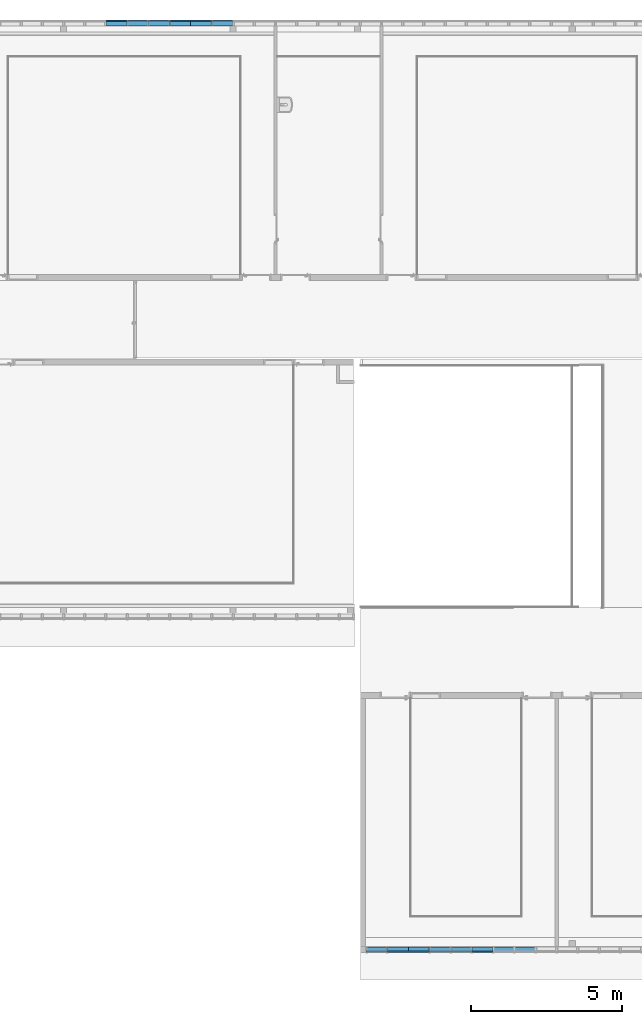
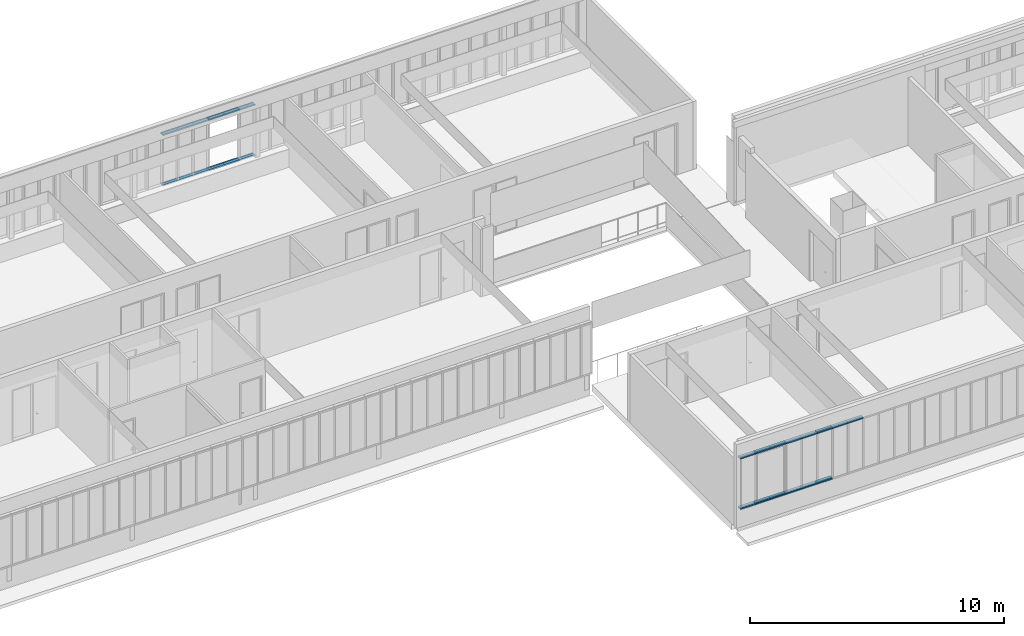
# One storey, part 12 of 87: 38 members, 2 elements without a shape of their own.
"""IFC2X3 building model written with IfcOpenShell, lengths in centimetres."""

from ifc_helpers import new_model, entity, si_unit, converted_unit, derived_unit, direction, frame, origin, place, context, subcontext, project, spatial, polyline, outline, extrude, source, transform, mapped, material, type_object, type_shapes, element, aggregate, save


model = new_model("IFC2X3")

# Units and contexts
model_context = context("Model", 3, precision=0.001, world=origin(), true_north=direction((6.12303176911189e-17, 1.0)))
body_context = subcontext(model_context, "Body", "Model", "MODEL_VIEW")
ifc_project = project(units=[si_unit("LENGTHUNIT", "METRE", prefix="CENTI"), si_unit("AREAUNIT", "SQUARE_METRE"), si_unit("VOLUMEUNIT", "CUBIC_METRE"), converted_unit("PLANEANGLEUNIT", "DEGREE", entity("IfcRatioMeasure", 0.0174532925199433), si_unit("PLANEANGLEUNIT", "RADIAN"), dimensions=[0, 0, 0, 0, 0, 0, 0]), si_unit("MASSUNIT", "GRAM", prefix="KILO"), derived_unit("MASSDENSITYUNIT", [(si_unit("MASSUNIT", "GRAM", prefix="KILO"), 1), (si_unit("LENGTHUNIT", "METRE"), -3)]), si_unit("TIMEUNIT", "SECOND"), si_unit("FREQUENCYUNIT", "HERTZ"), si_unit("THERMODYNAMICTEMPERATUREUNIT", "DEGREE_CELSIUS"), derived_unit("THERMALTRANSMITTANCEUNIT", [(si_unit("MASSUNIT", "GRAM", prefix="KILO"), 1), (si_unit("THERMODYNAMICTEMPERATUREUNIT", "KELVIN"), -1), (si_unit("TIMEUNIT", "SECOND"), -3)]), derived_unit("VOLUMETRICFLOWRATEUNIT", [(si_unit("LENGTHUNIT", "METRE"), 3), (si_unit("TIMEUNIT", "SECOND"), -1)]), si_unit("ELECTRICCURRENTUNIT", "AMPERE"), si_unit("ELECTRICVOLTAGEUNIT", "VOLT"), si_unit("POWERUNIT", "WATT"), si_unit("FORCEUNIT", "NEWTON", prefix="KILO"), si_unit("ILLUMINANCEUNIT", "LUX"), si_unit("LUMINOUSFLUXUNIT", "LUMEN"), si_unit("LUMINOUSINTENSITYUNIT", "CANDELA"), derived_unit("USERDEFINED", [(si_unit("MASSUNIT", "GRAM", prefix="KILO"), -1), (si_unit("LENGTHUNIT", "METRE"), -2), (si_unit("TIMEUNIT", "SECOND"), 3), (si_unit("LUMINOUSFLUXUNIT", "LUMEN"), 1)]), derived_unit("LINEARVELOCITYUNIT", [(si_unit("LENGTHUNIT", "METRE"), 1), (si_unit("TIMEUNIT", "SECOND"), -1)]), si_unit("PRESSUREUNIT", "PASCAL"), derived_unit("USERDEFINED", [(si_unit("LENGTHUNIT", "METRE"), -2), (si_unit("MASSUNIT", "GRAM", prefix="KILO"), 1), (si_unit("TIMEUNIT", "SECOND"), -2)])], contexts=[model_context])

# Site, building, storey
site_placement = place(None, frame((-2781.94577612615, 7442.24238424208, 0.0)))
site = spatial("IfcSite", under=ifc_project, at=site_placement, Name="Default", CompositionType="ELEMENT")
building_placement = place(site_placement, origin())
building = spatial("IfcBuilding", under=site, at=building_placement, CompositionType="ELEMENT")
storey_placement = place(building_placement, frame((0.0, 0.0, 774.0)))
storey = spatial("IfcBuildingStorey", under=building, at=storey_placement, Name="TR - N02 - ARCH", CompositionType="ELEMENT", Elevation=774.0)

# Curtain wall, member
curtain_wall_type = type_object("IfcCurtainWallType", Name="Mur-rideau:07 - mur rideau trame 70cm", PredefinedType="NOTDEFINED")
curtain_wall_1_placement = place(storey_placement, frame((0.0, 0.0, -774.0)))
curtain_wall_1 = element("IfcCurtainWall", 1, at=curtain_wall_1_placement, inside=storey, type_object=curtain_wall_type, Name="Mur-rideau:07 - mur rideau trame 70cm", ObjectType="Mur-rideau:07 - mur rideau trame 70cm")
ifc_material = material(Name="Aluminium")
member_type_1 = type_object("IfcMemberType", Name="150 x 25mm Détails", PredefinedType="MEMBER")
shared_shape_1 = source(origin(), body_context, "Body", "SweptSolid", [
    extrude(outline(polyline([(-5.6666666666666, -3.24999999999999), (-3.66666666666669, -3.24999999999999), (-3.66666666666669, -0.868749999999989), (-0.166666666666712, -0.868749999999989), (-0.166666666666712, -3.25000000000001), (13.3333333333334, -3.25000000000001), (13.3333333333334, 3.24999999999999), (-0.16666666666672, 3.24999999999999), (-0.16666666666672, 0.868749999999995), (-3.66666666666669, 0.868749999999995), (-3.66666666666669, 3.25), (-5.6666666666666, 3.25), (-5.6666666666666, -3.24999999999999)])), frame((-3.24999999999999, -1.96666666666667, -70.0), z_axis=(0.0, 0.0, 1.0), x_axis=(0.0, -1.0, 0.0)), (0.0, 0.0, 1.0), 70.0000000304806),
])
type_shapes(member_type_1, [shared_shape_1])
member_1_placement = place(storey_placement, frame((-4680.749882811, -3046.51349958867, 332.5), z_axis=(1.0, 0.0, 0.0), x_axis=(0.0, 0.0, 1.0)))
member_1 = element("IfcMember", 2, at=member_1_placement, type_object=member_type_1, material=ifc_material, Name="Meneau rectangulaire:150 x 25mm Détails", ObjectType="Meneau rectangulaire:150 x 25mm Détails", context=body_context, shape_type="MappedRepresentation", body=[
    mapped(shared_shape_1, transform((0.0, 0.0, 0.0), scale=1.0)),
])

# Curtain wall, members
curtain_wall_2_placement = place(storey_placement, frame((0.0, 0.0, -774.0)))
curtain_wall_2 = element("IfcCurtainWall", 3, at=curtain_wall_2_placement, inside=storey, type_object=curtain_wall_type, Name="Mur-rideau:07 - mur rideau trame 70cm", ObjectType="Mur-rideau:07 - mur rideau trame 70cm")
member_type_2 = type_object("IfcMemberType", Name="150 x 25mm Détails", PredefinedType="MEMBER")
shared_shape_2 = source(origin(), body_context, "Body", "SweptSolid", [
    extrude(outline(polyline([(-5.6666666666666, -3.24999999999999), (-3.66666666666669, -3.24999999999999), (-3.66666666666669, -0.868749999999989), (-0.166666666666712, -0.868749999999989), (-0.166666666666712, -3.25000000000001), (13.3333333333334, -3.25000000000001), (13.3333333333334, 3.24999999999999), (-0.16666666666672, 3.24999999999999), (-0.16666666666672, 0.868749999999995), (-3.66666666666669, 0.868749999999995), (-3.66666666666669, 3.25), (-5.6666666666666, 3.25), (-5.6666666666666, -3.24999999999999)])), frame((-3.24999999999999, -1.96666666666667, -70.0), z_axis=(0.0, 0.0, 1.0), x_axis=(0.0, -1.0, 0.0)), (0.0, 0.0, 1.0), 69.9999999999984),
])
type_shapes(member_type_2, [shared_shape_2])
member_2_placement = place(storey_placement, frame((-5259.4998776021, 26.2000000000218, 332.5), z_axis=(-1.0, 0.0, 0.0), x_axis=(0.0, 0.0, 1.0)))
member_2 = element("IfcMember", 4, at=member_2_placement, type_object=member_type_2, material=ifc_material, Name="Meneau rectangulaire:150 x 25mm Détails", ObjectType="Meneau rectangulaire:150 x 25mm Détails", context=body_context, shape_type="MappedRepresentation", body=[
    mapped(shared_shape_2, transform((0.0, 0.0, 0.0), scale=1.0)),
])
member_3_placement = place(storey_placement, frame((-5329.4998776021, 26.2000000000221, 332.5), z_axis=(-1.0, 0.0, 0.0), x_axis=(0.0, 0.0, 1.0)))
member_3 = element("IfcMember", 5, at=member_3_placement, type_object=member_type_2, material=ifc_material, Name="Meneau rectangulaire:150 x 25mm Détails", ObjectType="Meneau rectangulaire:150 x 25mm Détails", context=body_context, shape_type="MappedRepresentation", body=[
    mapped(shared_shape_2, transform((0.0, 0.0, 0.0), scale=1.0)),
])
member_4_placement = place(storey_placement, frame((-5399.4998776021, 26.2000000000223, 332.5), z_axis=(-1.0, 0.0, 0.0), x_axis=(0.0, 0.0, 1.0)))
member_4 = element("IfcMember", 6, at=member_4_placement, type_object=member_type_2, material=ifc_material, Name="Meneau rectangulaire:150 x 25mm Détails", ObjectType="Meneau rectangulaire:150 x 25mm Détails", context=body_context, shape_type="MappedRepresentation", body=[
    mapped(shared_shape_2, transform((0.0, 0.0, 0.0), scale=1.0)),
])
member_5_placement = place(storey_placement, frame((-5469.4998776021, 26.2000000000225, 332.5), z_axis=(-1.0, 0.0, 0.0), x_axis=(0.0, 0.0, 1.0)))
member_5 = element("IfcMember", 7, at=member_5_placement, type_object=member_type_2, material=ifc_material, Name="Meneau rectangulaire:150 x 25mm Détails", ObjectType="Meneau rectangulaire:150 x 25mm Détails", context=body_context, shape_type="MappedRepresentation", body=[
    mapped(shared_shape_2, transform((0.0, 0.0, 0.0), scale=1.0)),
])
member_6_placement = place(storey_placement, frame((-5539.4998776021, 26.2000000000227, 332.5), z_axis=(-1.0, 0.0, 0.0), x_axis=(0.0, 0.0, 1.0)))
member_6 = element("IfcMember", 8, at=member_6_placement, type_object=member_type_2, material=ifc_material, Name="Meneau rectangulaire:150 x 25mm Détails", ObjectType="Meneau rectangulaire:150 x 25mm Détails", context=body_context, shape_type="MappedRepresentation", body=[
    mapped(shared_shape_2, transform((0.0, 0.0, 0.0), scale=1.0)),
])
member_7_placement = place(storey_placement, frame((-5609.4998776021, 26.200000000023, 332.5), z_axis=(-1.0, 0.0, 0.0), x_axis=(0.0, 0.0, 1.0)))
member_7 = element("IfcMember", 9, at=member_7_placement, type_object=member_type_2, material=ifc_material, Name="Meneau rectangulaire:150 x 25mm Détails", ObjectType="Meneau rectangulaire:150 x 25mm Détails", context=body_context, shape_type="MappedRepresentation", body=[
    mapped(shared_shape_2, transform((0.0, 0.0, 0.0), scale=1.0)),
])

# Member
member_8_placement = place(storey_placement, frame((-4610.749882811, -3046.51349958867, 332.5), z_axis=(1.0, 0.0, 0.0), x_axis=(0.0, 0.0, 1.0)))
member_8 = element("IfcMember", 10, at=member_8_placement, type_object=member_type_2, material=ifc_material, Name="Meneau rectangulaire:150 x 25mm Détails", ObjectType="Meneau rectangulaire:150 x 25mm Détails", context=body_context, shape_type="MappedRepresentation", body=[
    mapped(shared_shape_2, transform((0.0, 0.0, 0.0), scale=1.0)),
])

member_9_placement = place(storey_placement, frame((-4540.749882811, -3046.51349958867, 332.5), z_axis=(1.0, 0.0, 0.0), x_axis=(0.0, 0.0, 1.0)))
member_9 = element("IfcMember", 11, at=member_9_placement, type_object=member_type_2, material=ifc_material, Name="Meneau rectangulaire:150 x 25mm Détails", ObjectType="Meneau rectangulaire:150 x 25mm Détails", context=body_context, shape_type="MappedRepresentation", body=[
    mapped(shared_shape_2, transform((0.0, 0.0, 0.0), scale=1.0)),
])

member_10_placement = place(storey_placement, frame((-4470.749882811, -3046.51349958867, 332.5), z_axis=(1.0, 0.0, 0.0), x_axis=(0.0, 0.0, 1.0)))
member_10 = element("IfcMember", 12, at=member_10_placement, type_object=member_type_2, material=ifc_material, Name="Meneau rectangulaire:150 x 25mm Détails", ObjectType="Meneau rectangulaire:150 x 25mm Détails", context=body_context, shape_type="MappedRepresentation", body=[
    mapped(shared_shape_2, transform((0.0, 0.0, 0.0), scale=1.0)),
])

member_11_placement = place(storey_placement, frame((-4400.749882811, -3046.51349958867, 332.5), z_axis=(1.0, 0.0, 0.0), x_axis=(0.0, 0.0, 1.0)))
member_11 = element("IfcMember", 13, at=member_11_placement, type_object=member_type_2, material=ifc_material, Name="Meneau rectangulaire:150 x 25mm Détails", ObjectType="Meneau rectangulaire:150 x 25mm Détails", context=body_context, shape_type="MappedRepresentation", body=[
    mapped(shared_shape_2, transform((0.0, 0.0, 0.0), scale=1.0)),
])

member_12_placement = place(storey_placement, frame((-4330.749882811, -3046.51349958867, 332.5), z_axis=(1.0, 0.0, 0.0), x_axis=(0.0, 0.0, 1.0)))
member_12 = element("IfcMember", 14, at=member_12_placement, type_object=member_type_2, material=ifc_material, Name="Meneau rectangulaire:150 x 25mm Détails", ObjectType="Meneau rectangulaire:150 x 25mm Détails", context=body_context, shape_type="MappedRepresentation", body=[
    mapped(shared_shape_2, transform((0.0, 0.0, 0.0), scale=1.0)),
])

member_13_placement = place(storey_placement, frame((-4260.749882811, -3046.51349958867, 332.5), z_axis=(1.0, 0.0, 0.0), x_axis=(0.0, 0.0, 1.0)))
member_13 = element("IfcMember", 15, at=member_13_placement, type_object=member_type_2, material=ifc_material, Name="Meneau rectangulaire:150 x 25mm Détails", ObjectType="Meneau rectangulaire:150 x 25mm Détails", context=body_context, shape_type="MappedRepresentation", body=[
    mapped(shared_shape_2, transform((0.0, 0.0, 0.0), scale=1.0)),
])

member_14_placement = place(storey_placement, frame((-4190.749882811, -3046.51349958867, 332.5), z_axis=(1.0, 0.0, 0.0), x_axis=(0.0, 0.0, 1.0)))
member_14 = element("IfcMember", 16, at=member_14_placement, type_object=member_type_2, material=ifc_material, Name="Meneau rectangulaire:150 x 25mm Détails", ObjectType="Meneau rectangulaire:150 x 25mm Détails", context=body_context, shape_type="MappedRepresentation", body=[
    mapped(shared_shape_2, transform((0.0, 0.0, 0.0), scale=1.0)),
])

member_type_3 = type_object("IfcMemberType", Name="150 x 25mm Détails", PredefinedType="MEMBER")
shared_shape_3 = source(origin(), body_context, "Body", "SweptSolid", [
    extrude(outline(polyline([(-5.66666666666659, -3.25), (-3.66666666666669, -3.25), (-3.66666666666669, -0.868749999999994), (-0.166666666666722, -0.868749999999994), (-0.166666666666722, -3.25000000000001), (13.3333333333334, -3.24999999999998), (13.3333333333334, 3.25000000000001), (-0.166666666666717, 3.25000000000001), (-0.166666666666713, 0.868749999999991), (-3.66666666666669, 0.868749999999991), (-3.66666666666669, 3.24999999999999), (-5.66666666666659, 3.24999999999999), (-5.66666666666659, -3.25)])), frame((-3.24999999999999, -1.96666666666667, -70.0), z_axis=(0.0, 0.0, 1.0), x_axis=(0.0, -1.0, 0.0)), (0.0, 0.0, 1.0), 70.0000000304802),
])
type_shapes(member_type_3, [shared_shape_3])
member_15_placement = place(storey_placement, frame((-4750.74988284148, -3046.51349958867, 83.5000000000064), z_axis=(-1.0, 0.0, 0.0), x_axis=(0.0, 0.0, -1.0)))
member_15 = element("IfcMember", 17, at=member_15_placement, type_object=member_type_3, material=ifc_material, Name="Meneau rectangulaire:150 x 25mm Détails", ObjectType="Meneau rectangulaire:150 x 25mm Détails", context=body_context, shape_type="MappedRepresentation", body=[
    mapped(shared_shape_3, transform((0.0, 0.0, 0.0), scale=1.0)),
])

member_type_4 = type_object("IfcMemberType", Name="150 x 25mm Détails", PredefinedType="MEMBER")
shared_shape_4 = source(origin(), body_context, "Body", "SweptSolid", [
    extrude(outline(polyline([(-5.66666666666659, -3.25), (-3.66666666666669, -3.25), (-3.66666666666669, -0.868749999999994), (-0.166666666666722, -0.868749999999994), (-0.166666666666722, -3.25000000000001), (13.3333333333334, -3.24999999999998), (13.3333333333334, 3.25000000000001), (-0.166666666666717, 3.25000000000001), (-0.166666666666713, 0.868749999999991), (-3.66666666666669, 0.868749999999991), (-3.66666666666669, 3.24999999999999), (-5.66666666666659, 3.24999999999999), (-5.66666666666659, -3.25)])), frame((-3.24999999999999, -1.96666666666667, -70.0), z_axis=(0.0, 0.0, 1.0), x_axis=(0.0, -1.0, 0.0)), (0.0, 0.0, 1.0), 69.9999999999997),
])
type_shapes(member_type_4, [shared_shape_4])
member_16_placement = place(storey_placement, frame((-5189.4998776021, 26.2000000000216, 83.5), z_axis=(1.0, 0.0, 0.0), x_axis=(0.0, 0.0, -1.0)))
member_16 = element("IfcMember", 18, at=member_16_placement, type_object=member_type_4, material=ifc_material, Name="Meneau rectangulaire:150 x 25mm Détails", ObjectType="Meneau rectangulaire:150 x 25mm Détails", context=body_context, shape_type="MappedRepresentation", body=[
    mapped(shared_shape_4, transform((0.0, 0.0, 0.0), scale=1.0)),
])

member_17_placement = place(storey_placement, frame((-5259.4998776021, 26.2000000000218, 83.5), z_axis=(1.0, 0.0, 0.0), x_axis=(0.0, 0.0, -1.0)))
member_17 = element("IfcMember", 19, at=member_17_placement, type_object=member_type_4, material=ifc_material, Name="Meneau rectangulaire:150 x 25mm Détails", ObjectType="Meneau rectangulaire:150 x 25mm Détails", context=body_context, shape_type="MappedRepresentation", body=[
    mapped(shared_shape_4, transform((0.0, 0.0, 0.0), scale=1.0)),
])

member_18_placement = place(storey_placement, frame((-5329.4998776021, 26.2000000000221, 83.5), z_axis=(1.0, 0.0, 0.0), x_axis=(0.0, 0.0, -1.0)))
member_18 = element("IfcMember", 20, at=member_18_placement, type_object=member_type_4, material=ifc_material, Name="Meneau rectangulaire:150 x 25mm Détails", ObjectType="Meneau rectangulaire:150 x 25mm Détails", context=body_context, shape_type="MappedRepresentation", body=[
    mapped(shared_shape_4, transform((0.0, 0.0, 0.0), scale=1.0)),
])

member_19_placement = place(storey_placement, frame((-5399.4998776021, 26.2000000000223, 83.5), z_axis=(1.0, 0.0, 0.0), x_axis=(0.0, 0.0, -1.0)))
member_19 = element("IfcMember", 21, at=member_19_placement, type_object=member_type_4, material=ifc_material, Name="Meneau rectangulaire:150 x 25mm Détails", ObjectType="Meneau rectangulaire:150 x 25mm Détails", context=body_context, shape_type="MappedRepresentation", body=[
    mapped(shared_shape_4, transform((0.0, 0.0, 0.0), scale=1.0)),
])

member_20_placement = place(storey_placement, frame((-5469.4998776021, 26.2000000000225, 83.5), z_axis=(1.0, 0.0, 0.0), x_axis=(0.0, 0.0, -1.0)))
member_20 = element("IfcMember", 22, at=member_20_placement, type_object=member_type_4, material=ifc_material, Name="Meneau rectangulaire:150 x 25mm Détails", ObjectType="Meneau rectangulaire:150 x 25mm Détails", context=body_context, shape_type="MappedRepresentation", body=[
    mapped(shared_shape_4, transform((0.0, 0.0, 0.0), scale=1.0)),
])

member_21_placement = place(storey_placement, frame((-5539.4998776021, 26.2000000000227, 83.5), z_axis=(1.0, 0.0, 0.0), x_axis=(0.0, 0.0, -1.0)))
member_21 = element("IfcMember", 23, at=member_21_placement, type_object=member_type_4, material=ifc_material, Name="Meneau rectangulaire:150 x 25mm Détails", ObjectType="Meneau rectangulaire:150 x 25mm Détails", context=body_context, shape_type="MappedRepresentation", body=[
    mapped(shared_shape_4, transform((0.0, 0.0, 0.0), scale=1.0)),
])

member_22_placement = place(storey_placement, frame((-4540.749882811, -3046.51349958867, 83.5000000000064), z_axis=(-1.0, 0.0, 0.0), x_axis=(0.0, 0.0, -1.0)))
member_22 = element("IfcMember", 24, at=member_22_placement, type_object=member_type_4, material=ifc_material, Name="Meneau rectangulaire:150 x 25mm Détails", ObjectType="Meneau rectangulaire:150 x 25mm Détails", context=body_context, shape_type="MappedRepresentation", body=[
    mapped(shared_shape_4, transform((0.0, 0.0, 0.0), scale=1.0)),
])

member_23_placement = place(storey_placement, frame((-4470.749882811, -3046.51349958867, 83.5000000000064), z_axis=(-1.0, 0.0, 0.0), x_axis=(0.0, 0.0, -1.0)))
member_23 = element("IfcMember", 25, at=member_23_placement, type_object=member_type_4, material=ifc_material, Name="Meneau rectangulaire:150 x 25mm Détails", ObjectType="Meneau rectangulaire:150 x 25mm Détails", context=body_context, shape_type="MappedRepresentation", body=[
    mapped(shared_shape_4, transform((0.0, 0.0, 0.0), scale=1.0)),
])

member_24_placement = place(storey_placement, frame((-4400.749882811, -3046.51349958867, 83.5000000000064), z_axis=(-1.0, 0.0, 0.0), x_axis=(0.0, 0.0, -1.0)))
member_24 = element("IfcMember", 26, at=member_24_placement, type_object=member_type_4, material=ifc_material, Name="Meneau rectangulaire:150 x 25mm Détails", ObjectType="Meneau rectangulaire:150 x 25mm Détails", context=body_context, shape_type="MappedRepresentation", body=[
    mapped(shared_shape_4, transform((0.0, 0.0, 0.0), scale=1.0)),
])

member_type_5 = type_object("IfcMemberType", Name="150 x 25mm Détails", PredefinedType="MEMBER")
shared_shape_5 = source(origin(), body_context, "Body", "SweptSolid", [
    extrude(outline(polyline([(-5.66666666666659, -3.25), (-3.66666666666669, -3.25), (-3.66666666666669, -0.868749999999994), (-0.166666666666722, -0.868749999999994), (-0.166666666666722, -3.25000000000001), (13.3333333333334, -3.24999999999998), (13.3333333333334, 3.25000000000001), (-0.166666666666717, 3.25000000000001), (-0.166666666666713, 0.868749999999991), (-3.66666666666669, 0.868749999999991), (-3.66666666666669, 3.24999999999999), (-5.66666666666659, 3.24999999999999), (-5.66666666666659, -3.25)])), frame((-3.24999999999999, -1.96666666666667, -70.0), z_axis=(0.0, 0.0, 1.0), x_axis=(0.0, -1.0, 0.0)), (0.0, 0.0, 1.0), 69.9999999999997),
])
type_shapes(member_type_5, [shared_shape_5])
member_25_placement = place(storey_placement, frame((-4680.749882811, -3046.51349958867, 83.5000000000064), z_axis=(-1.0, 0.0, 0.0), x_axis=(0.0, 0.0, -1.0)))
member_25 = element("IfcMember", 27, at=member_25_placement, type_object=member_type_5, material=ifc_material, Name="Meneau rectangulaire:150 x 25mm Détails", ObjectType="Meneau rectangulaire:150 x 25mm Détails", context=body_context, shape_type="MappedRepresentation", body=[
    mapped(shared_shape_5, transform((0.0, 0.0, 0.0), scale=1.0)),
])

member_type_6 = type_object("IfcMemberType", Name="150 x 25mm Détails", PredefinedType="MEMBER")
shared_shape_6 = source(origin(), body_context, "Body", "SweptSolid", [
    extrude(outline(polyline([(-5.66666666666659, -3.25), (-3.66666666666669, -3.25), (-3.66666666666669, -0.868749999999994), (-0.166666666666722, -0.868749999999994), (-0.166666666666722, -3.25000000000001), (13.3333333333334, -3.24999999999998), (13.3333333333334, 3.25000000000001), (-0.166666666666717, 3.25000000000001), (-0.166666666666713, 0.868749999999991), (-3.66666666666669, 0.868749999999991), (-3.66666666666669, 3.24999999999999), (-5.66666666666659, 3.24999999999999), (-5.66666666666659, -3.25)])), frame((-3.24999999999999, -1.96666666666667, -70.0), z_axis=(0.0, 0.0, 1.0), x_axis=(0.0, -1.0, 0.0)), (0.0, 0.0, 1.0), 69.9999999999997),
])
type_shapes(member_type_6, [shared_shape_6])
member_26_placement = place(storey_placement, frame((-4610.749882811, -3046.51349958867, 83.5000000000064), z_axis=(-1.0, 0.0, 0.0), x_axis=(0.0, 0.0, -1.0)))
member_26 = element("IfcMember", 28, at=member_26_placement, type_object=member_type_6, material=ifc_material, Name="Meneau rectangulaire:150 x 25mm Détails", ObjectType="Meneau rectangulaire:150 x 25mm Détails", context=body_context, shape_type="MappedRepresentation", body=[
    mapped(shared_shape_6, transform((0.0, 0.0, 0.0), scale=1.0)),
])

member_type_7 = type_object("IfcMemberType", Name="150 x 25mm Détails", PredefinedType="MEMBER")
shared_shape_7 = source(origin(), body_context, "Body", "SweptSolid", [
    extrude(outline(polyline([(-5.66666666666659, -3.25), (-3.66666666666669, -3.25), (-3.66666666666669, -0.868749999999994), (-0.166666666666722, -0.868749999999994), (-0.166666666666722, -3.25000000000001), (13.3333333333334, -3.24999999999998), (13.3333333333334, 3.25000000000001), (-0.166666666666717, 3.25000000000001), (-0.166666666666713, 0.868749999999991), (-3.66666666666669, 0.868749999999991), (-3.66666666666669, 3.24999999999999), (-5.66666666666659, 3.24999999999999), (-5.66666666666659, -3.25)])), frame((-3.24999999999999, -1.96666666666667, -68.0), z_axis=(0.0, 0.0, 1.0), x_axis=(0.0, -1.0, 0.0)), (0.0, 0.0, 1.0), 68.0000000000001),
])
type_shapes(member_type_7, [shared_shape_7])
member_27_placement = place(storey_placement, frame((-5540.4686276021, 26.2000000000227, 326.0), z_axis=(1.0, 0.0, 0.0), x_axis=(0.0, 0.0, -1.0)))
member_27 = element("IfcMember", 29, at=member_27_placement, type_object=member_type_7, material=ifc_material, Name="Meneau rectangulaire:150 x 25mm Détails", ObjectType="Meneau rectangulaire:150 x 25mm Détails", context=body_context, shape_type="MappedRepresentation", body=[
    mapped(shared_shape_7, transform((0.0, 0.0, 0.0), scale=1.0)),
])

member_28_placement = place(storey_placement, frame((-4399.99987760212, -3046.51349958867, 326.0), z_axis=(-1.0, 0.0, 0.0), x_axis=(0.0, 0.0, -1.0)))
member_28 = element("IfcMember", 30, at=member_28_placement, type_object=member_type_7, material=ifc_material, Name="Meneau rectangulaire:150 x 25mm Détails", ObjectType="Meneau rectangulaire:150 x 25mm Détails", context=body_context, shape_type="MappedRepresentation", body=[
    mapped(shared_shape_7, transform((0.0, 0.0, 0.0), scale=1.0)),
])

member_type_8 = type_object("IfcMemberType", Name="150 x 25mm Détails", PredefinedType="MEMBER")
shared_shape_8 = source(origin(), body_context, "Body", "SweptSolid", [
    extrude(outline(polyline([(-5.66666666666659, -3.25), (-3.66666666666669, -3.25), (-3.66666666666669, -0.868749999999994), (-0.166666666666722, -0.868749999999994), (-0.166666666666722, -3.25000000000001), (13.3333333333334, -3.24999999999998), (13.3333333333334, 3.25000000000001), (-0.166666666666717, 3.25000000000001), (-0.166666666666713, 0.868749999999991), (-3.66666666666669, 0.868749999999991), (-3.66666666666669, 3.24999999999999), (-5.66666666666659, 3.24999999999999), (-5.66666666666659, -3.25)])), frame((-3.24999999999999, -1.96666666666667, -66.7499999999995), z_axis=(0.0, 0.0, 1.0), x_axis=(0.0, -1.0, 0.0)), (0.0, 0.0, 1.0), 66.7499999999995),
])
type_shapes(member_type_8, [shared_shape_8])
member_29_placement = place(storey_placement, frame((-5262.7498776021, 26.2000000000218, 326.0), z_axis=(1.0, 0.0, 0.0), x_axis=(0.0, 0.0, -1.0)))
member_29 = element("IfcMember", 31, at=member_29_placement, type_object=member_type_8, material=ifc_material, Name="Meneau rectangulaire:150 x 25mm Détails", ObjectType="Meneau rectangulaire:150 x 25mm Détails", context=body_context, shape_type="MappedRepresentation", body=[
    mapped(shared_shape_8, transform((0.0, 0.0, 0.0), scale=1.0)),
])

member_30_placement = place(storey_placement, frame((-4677.499882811, -3046.51349958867, 326.0), z_axis=(-1.0, 0.0, 0.0), x_axis=(0.0, 0.0, -1.0)))
member_30 = element("IfcMember", 32, at=member_30_placement, type_object=member_type_8, material=ifc_material, Name="Meneau rectangulaire:150 x 25mm Détails", ObjectType="Meneau rectangulaire:150 x 25mm Détails", context=body_context, shape_type="MappedRepresentation", body=[
    mapped(shared_shape_8, transform((0.0, 0.0, 0.0), scale=1.0)),
])

member_type_9 = type_object("IfcMemberType", Name="150 x 25mm Détails", PredefinedType="MEMBER")
shared_shape_9 = source(origin(), body_context, "Body", "SweptSolid", [
    extrude(outline(polyline([(-5.6666666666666, -3.24999999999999), (-3.66666666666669, -3.24999999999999), (-3.66666666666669, -0.868749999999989), (-0.166666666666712, -0.868749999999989), (-0.166666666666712, -3.25000000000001), (13.3333333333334, -3.25000000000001), (13.3333333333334, 3.24999999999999), (-0.16666666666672, 3.24999999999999), (-0.16666666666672, 0.868749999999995), (-3.66666666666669, 0.868749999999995), (-3.66666666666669, 3.25), (-5.6666666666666, 3.25), (-5.6666666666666, -3.24999999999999)])), frame((-3.24999999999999, -1.96666666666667, -68.0), z_axis=(0.0, 0.0, 1.0), x_axis=(0.0, -1.0, 0.0)), (0.0, 0.0, 1.0), 68.0000000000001),
])
type_shapes(member_type_9, [shared_shape_9])
member_31_placement = place(storey_placement, frame((-5608.4686276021, 26.200000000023, 90.0), z_axis=(-1.0, 0.0, 0.0), x_axis=(0.0, 0.0, 1.0)))
member_31 = element("IfcMember", 33, at=member_31_placement, type_object=member_type_9, material=ifc_material, Name="Meneau rectangulaire:150 x 25mm Détails", ObjectType="Meneau rectangulaire:150 x 25mm Détails", context=body_context, shape_type="MappedRepresentation", body=[
    mapped(shared_shape_9, transform((0.0, 0.0, 0.0), scale=1.0)),
])

member_32_placement = place(storey_placement, frame((-4331.99987760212, -3046.51349958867, 90.0), z_axis=(1.0, 0.0, 0.0), x_axis=(0.0, 0.0, 1.0)))
member_32 = element("IfcMember", 34, at=member_32_placement, type_object=member_type_9, material=ifc_material, Name="Meneau rectangulaire:150 x 25mm Détails", ObjectType="Meneau rectangulaire:150 x 25mm Détails", context=body_context, shape_type="MappedRepresentation", body=[
    mapped(shared_shape_9, transform((0.0, 0.0, 0.0), scale=1.0)),
])

member_type_10 = type_object("IfcMemberType", Name="150 x 25mm Détails", PredefinedType="MEMBER")
shared_shape_10 = source(origin(), body_context, "Body", "SweptSolid", [
    extrude(outline(polyline([(-5.6666666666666, -3.24999999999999), (-3.66666666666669, -3.24999999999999), (-3.66666666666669, -0.868749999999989), (-0.166666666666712, -0.868749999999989), (-0.166666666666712, -3.25000000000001), (13.3333333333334, -3.25000000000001), (13.3333333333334, 3.24999999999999), (-0.16666666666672, 3.24999999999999), (-0.16666666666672, 0.868749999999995), (-3.66666666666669, 0.868749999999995), (-3.66666666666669, 3.25), (-5.6666666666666, 3.25), (-5.6666666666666, -3.24999999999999)])), frame((-3.24999999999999, -1.96666666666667, -66.7499999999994), z_axis=(0.0, 0.0, 1.0), x_axis=(0.0, -1.0, 0.0)), (0.0, 0.0, 1.0), 66.7499999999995),
])
type_shapes(member_type_10, [shared_shape_10])
member_33_placement = place(storey_placement, frame((-5396.2498776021, 26.2000000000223, 90.0), z_axis=(-1.0, 0.0, 0.0), x_axis=(0.0, 0.0, 1.0)))
member_33 = element("IfcMember", 35, at=member_33_placement, type_object=member_type_10, material=ifc_material, Name="Meneau rectangulaire:150 x 25mm Détails", ObjectType="Meneau rectangulaire:150 x 25mm Détails", context=body_context, shape_type="MappedRepresentation", body=[
    mapped(shared_shape_10, transform((0.0, 0.0, 0.0), scale=1.0)),
])

member_type_11 = type_object("IfcMemberType", Name="150 x 25mm Détails", PredefinedType="MEMBER")
shared_shape_11 = source(origin(), body_context, "Body", "SweptSolid", [
    extrude(outline(polyline([(-5.6666666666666, -3.24999999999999), (-3.66666666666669, -3.24999999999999), (-3.66666666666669, -0.868749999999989), (-0.166666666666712, -0.868749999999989), (-0.166666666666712, -3.25000000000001), (13.3333333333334, -3.25000000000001), (13.3333333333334, 3.24999999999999), (-0.16666666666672, 3.24999999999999), (-0.16666666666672, 0.868749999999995), (-3.66666666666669, 0.868749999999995), (-3.66666666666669, 3.25), (-5.6666666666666, 3.25), (-5.6666666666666, -3.24999999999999)])), frame((-3.24999999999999, -1.96666666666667, -66.7499999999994), z_axis=(0.0, 0.0, 1.0), x_axis=(0.0, -1.0, 0.0)), (0.0, 0.0, 1.0), 66.7499999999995),
])
type_shapes(member_type_11, [shared_shape_11])
member_34_placement = place(storey_placement, frame((-4543.999882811, -3046.51349958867, 90.0), z_axis=(1.0, 0.0, 0.0), x_axis=(0.0, 0.0, 1.0)))
member_34 = element("IfcMember", 36, at=member_34_placement, type_object=member_type_11, material=ifc_material, Name="Meneau rectangulaire:150 x 25mm Détails", ObjectType="Meneau rectangulaire:150 x 25mm Détails", context=body_context, shape_type="MappedRepresentation", body=[
    mapped(shared_shape_11, transform((0.0, 0.0, 0.0), scale=1.0)),
])

member_type_12 = type_object("IfcMemberType", Name="150 x 25mm Détails", PredefinedType="MEMBER")
shared_shape_12 = source(origin(), body_context, "Body", "SweptSolid", [
    extrude(outline(polyline([(-5.66666666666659, -3.25), (-3.66666666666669, -3.25), (-3.66666666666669, -0.868749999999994), (-0.166666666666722, -0.868749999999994), (-0.166666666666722, -3.25000000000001), (13.3333333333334, -3.24999999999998), (13.3333333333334, 3.25000000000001), (-0.166666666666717, 3.25000000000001), (-0.166666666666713, 0.868749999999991), (-3.66666666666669, 0.868749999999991), (-3.66666666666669, 3.24999999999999), (-5.66666666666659, 3.24999999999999), (-5.66666666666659, -3.25)])), frame((-3.24999999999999, -1.96666666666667, -66.7499999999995), z_axis=(0.0, 0.0, 1.0), x_axis=(0.0, -1.0, 0.0)), (0.0, 0.0, 1.0), 66.7499999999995),
])
type_shapes(member_type_12, [shared_shape_12])
member_35_placement = place(storey_placement, frame((-5329.4998776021, 26.2000000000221, 326.0), z_axis=(1.0, 0.0, 0.0), x_axis=(0.0, 0.0, -1.0)))
member_35 = element("IfcMember", 37, at=member_35_placement, type_object=member_type_12, material=ifc_material, Name="Meneau rectangulaire:150 x 25mm Détails", ObjectType="Meneau rectangulaire:150 x 25mm Détails", context=body_context, shape_type="MappedRepresentation", body=[
    mapped(shared_shape_12, transform((0.0, 0.0, 0.0), scale=1.0)),
])

member_36_placement = place(storey_placement, frame((-4610.749882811, -3046.51349958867, 326.0), z_axis=(-1.0, 0.0, 0.0), x_axis=(0.0, 0.0, -1.0)))
member_36 = element("IfcMember", 38, at=member_36_placement, type_object=member_type_12, material=ifc_material, Name="Meneau rectangulaire:150 x 25mm Détails", ObjectType="Meneau rectangulaire:150 x 25mm Détails", context=body_context, shape_type="MappedRepresentation", body=[
    mapped(shared_shape_12, transform((0.0, 0.0, 0.0), scale=1.0)),
])

member_type_13 = type_object("IfcMemberType", Name="150 x 25mm Détails", PredefinedType="MEMBER")
shared_shape_13 = source(origin(), body_context, "Body", "SweptSolid", [
    extrude(outline(polyline([(-5.6666666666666, -3.24999999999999), (-3.66666666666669, -3.24999999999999), (-3.66666666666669, -0.868749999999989), (-0.166666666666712, -0.868749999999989), (-0.166666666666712, -3.25000000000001), (13.3333333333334, -3.25000000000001), (13.3333333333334, 3.24999999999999), (-0.16666666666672, 3.24999999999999), (-0.16666666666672, 0.868749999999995), (-3.66666666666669, 0.868749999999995), (-3.66666666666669, 3.25), (-5.6666666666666, 3.25), (-5.6666666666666, -3.24999999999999)])), frame((-3.24999999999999, -1.96666666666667, -66.7500000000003), z_axis=(0.0, 0.0, 1.0), x_axis=(0.0, -1.0, 0.0)), (0.0, 0.0, 1.0), 66.7500000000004),
])
type_shapes(member_type_13, [shared_shape_13])
member_37_placement = place(storey_placement, frame((-4610.749882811, -3046.51349958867, 90.0), z_axis=(1.0, 0.0, 0.0), x_axis=(0.0, 0.0, 1.0)))
member_37 = element("IfcMember", 39, at=member_37_placement, type_object=member_type_13, material=ifc_material, Name="Meneau rectangulaire:150 x 25mm Détails", ObjectType="Meneau rectangulaire:150 x 25mm Détails", context=body_context, shape_type="MappedRepresentation", body=[
    mapped(shared_shape_13, transform((0.0, 0.0, 0.0), scale=1.0)),
])

aggregate(curtain_wall_1, [member_1, member_8, member_9, member_10, member_11, member_12, member_13, member_14, member_15, member_25, member_26, member_22, member_23, member_24, member_30, member_34, member_28, member_32, member_36, member_37])

member_type_14 = type_object("IfcMemberType", Name="150 x 25mm Détails", PredefinedType="MEMBER")
shared_shape_14 = source(origin(), body_context, "Body", "SweptSolid", [
    extrude(outline(polyline([(-5.6666666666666, -3.24999999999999), (-3.66666666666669, -3.24999999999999), (-3.66666666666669, -0.868749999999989), (-0.166666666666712, -0.868749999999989), (-0.166666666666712, -3.25000000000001), (13.3333333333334, -3.25000000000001), (13.3333333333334, 3.24999999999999), (-0.16666666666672, 3.24999999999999), (-0.16666666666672, 0.868749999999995), (-3.66666666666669, 0.868749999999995), (-3.66666666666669, 3.25), (-5.6666666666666, 3.25), (-5.6666666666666, -3.24999999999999)])), frame((-3.24999999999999, -1.96666666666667, -66.7499999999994), z_axis=(0.0, 0.0, 1.0), x_axis=(0.0, -1.0, 0.0)), (0.0, 0.0, 1.0), 66.7499999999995),
])
type_shapes(member_type_14, [shared_shape_14])
member_38_placement = place(storey_placement, frame((-5329.4998776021, 26.2000000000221, 90.0), z_axis=(-1.0, 0.0, 0.0), x_axis=(0.0, 0.0, 1.0)))
member_38 = element("IfcMember", 40, at=member_38_placement, type_object=member_type_14, material=ifc_material, Name="Meneau rectangulaire:150 x 25mm Détails", ObjectType="Meneau rectangulaire:150 x 25mm Détails", context=body_context, shape_type="MappedRepresentation", body=[
    mapped(shared_shape_14, transform((0.0, 0.0, 0.0), scale=1.0)),
])

aggregate(curtain_wall_2, [member_2, member_3, member_4, member_5, member_6, member_7, member_16, member_17, member_18, member_19, member_20, member_21, member_27, member_29, member_31, member_33, member_35, member_38])

save(model, "model.ifc")
